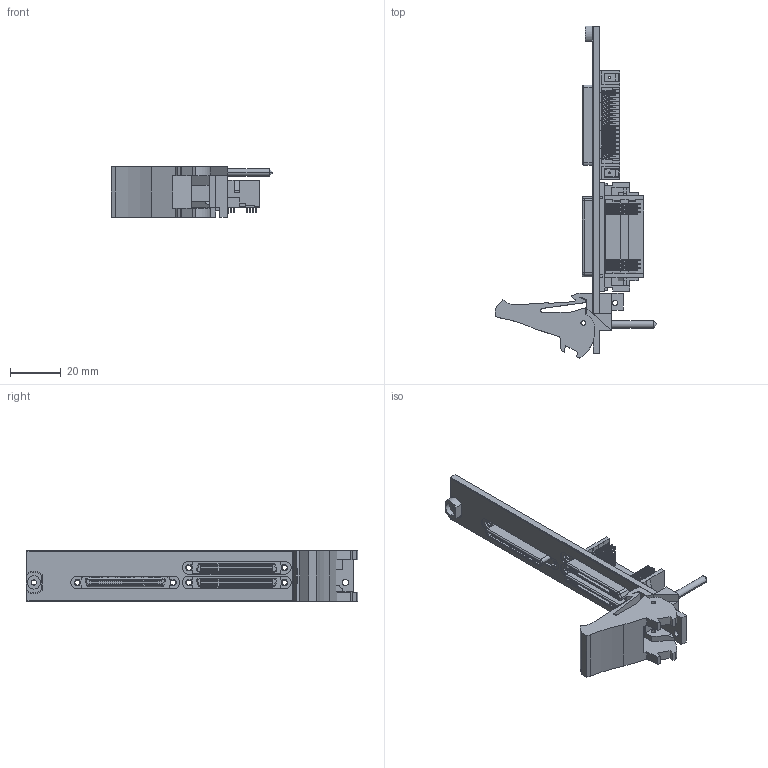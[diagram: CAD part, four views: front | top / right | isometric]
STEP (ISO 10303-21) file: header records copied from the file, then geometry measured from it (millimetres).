
FILE_DESCRIPTION((''),'2;1');
FILE_NAME('CU_PXI-2536','2009-10-06T',('jjorden'),(''),'PRO/ENGINEER BY PARAMETRIC TECHNOLOGY CORPORATION, 2006080','PRO/ENGINEER BY PARAMETRIC TECHNOLOGY CORPORATION, 2006080','');
FILE_SCHEMA(('CONFIG_CONTROL_DESIGN'));
Products named in the file (1): CU_PXI-2536
Bounding box: 63.53 x 130.5 x 20.02 mm (x, y, z)
Volume: 16628.3 mm3; surface area: 20551.2 mm2
Topology: 1 solids, 1 shells, 4172 faces, 11796 edges, 7740 vertices
Faces by surface type: plane 3517, cylinder 629, cone 14, sphere 8, bspline 4
Entity records: 134215 total; most frequent: CARTESIAN_POINT 23994, ORIENTED_EDGE 23592, DIRECTION 21386, EDGE_CURVE 11796, VECTOR 10492, LINE 10492, VERTEX_POINT 7740, AXIS2_PLACEMENT_3D 5447
